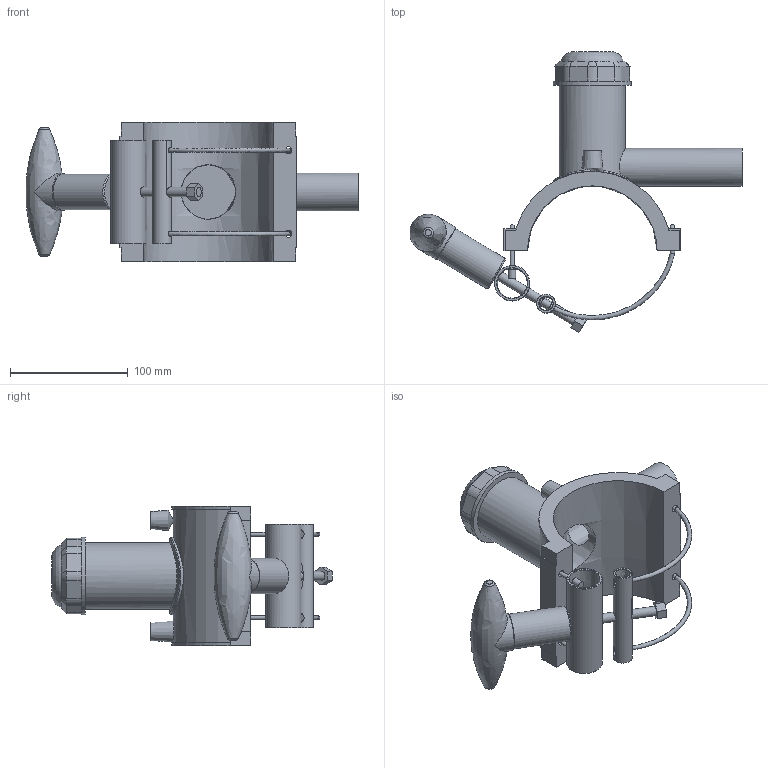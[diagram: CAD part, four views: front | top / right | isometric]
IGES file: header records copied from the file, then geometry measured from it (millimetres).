
Global section: file name: 4963Q4110032.ipt; native system: Autodesk Inventor 2019; preprocessor: unknown; author: KIM; date: 20210307.125204; units: millimetre
Bounding box: 281.68 x 238.16 x 118 mm (x, y, z)
Volume: 562276.1 mm3; surface area: 158717.1 mm2
Topology: 6 solids, 7 shells, 180 faces, 456 edges, 298 vertices
Faces by surface type: plane 87, cylinder 36, revolution 33, cone 15, bspline 9
Full cylindrical faces by diameter (mm): 3.6 x6, 4 x2, 6 x4, 8 x1, 16 x1, 30 x2, 32 x2, 56.1 x1, 66 x1
